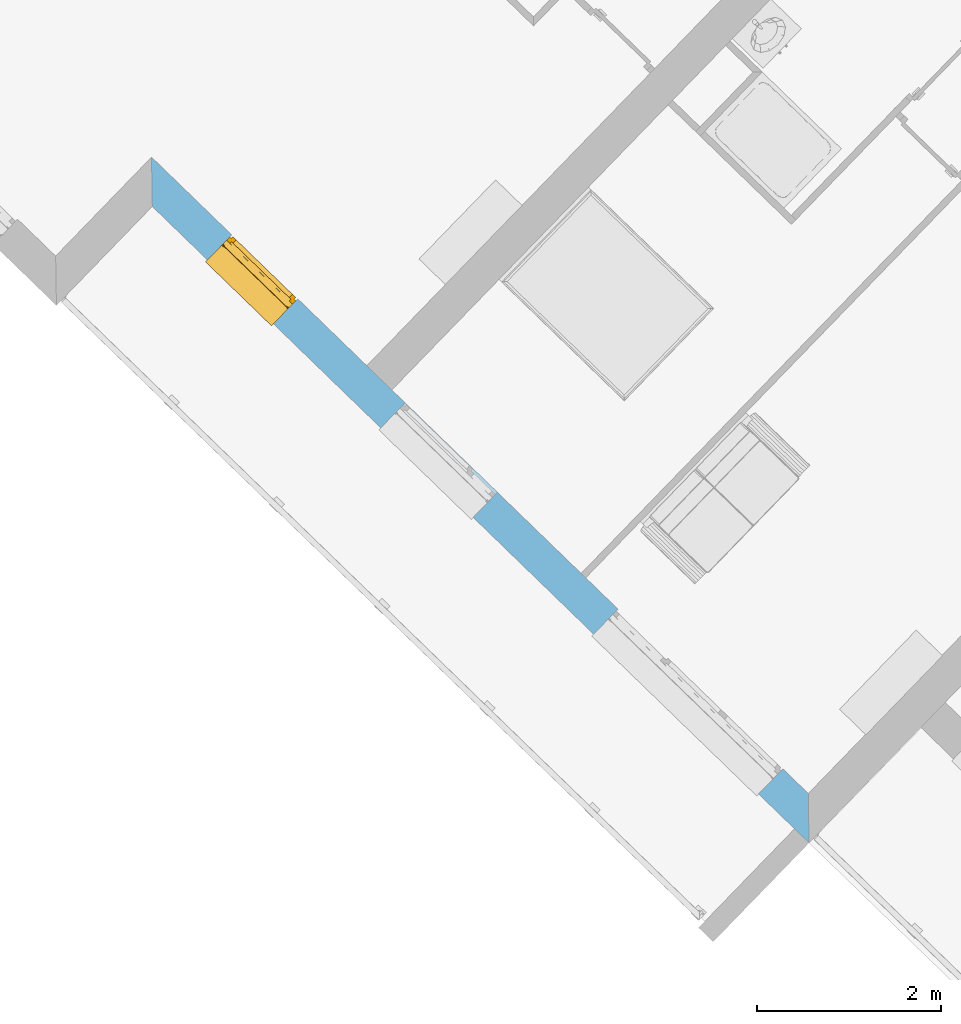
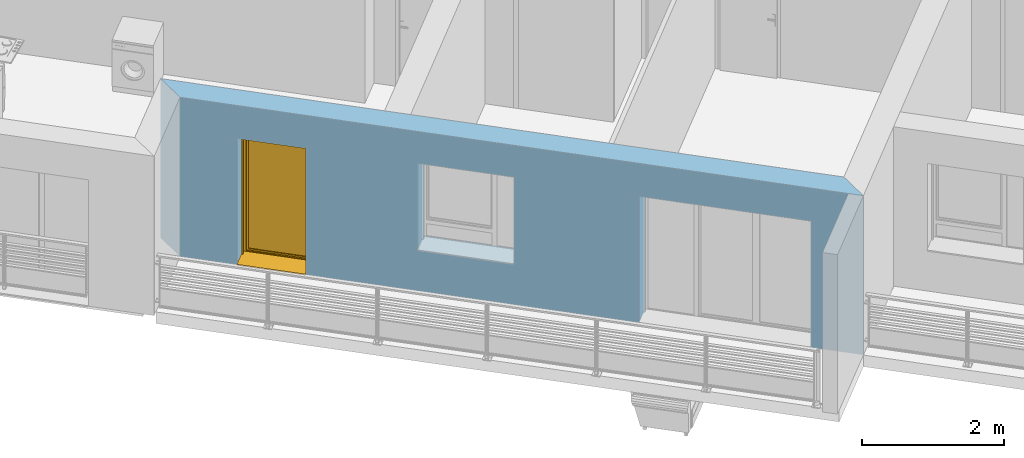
# One storey, part 10 of 121: 1 window, 3 openings, plus 1 element that does not belong to this part.
"""IFC2X3 building model written with IfcOpenShell, lengths in metres."""

from ifc_helpers import new_model, entity, si_unit, converted_unit, derived_unit, money_unit, direction, frame, origin_with_axes, place, context, subcontext, project, spatial, polyline, outline, extrude, open_shell, faceted_brep, surface_model, source, transform, mapped, material, layer, layer_set, layer_usage, type_object, element, fill, save


model = new_model("IFC2X3")

# Units and contexts
model_context = context("Model", 3, precision=1e-05, world=origin_with_axes(), true_north=direction((0.0, 1.0)))
body_context = subcontext(model_context, "Body", "Model", "MODEL_VIEW")
ifc_project = project(units=[si_unit("LENGTHUNIT", "METRE"), si_unit("AREAUNIT", "SQUARE_METRE"), si_unit("VOLUMEUNIT", "CUBIC_METRE"), converted_unit("PLANEANGLEUNIT", "DEGREE", entity("IfcPlaneAngleMeasure", 0.0174532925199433), si_unit("PLANEANGLEUNIT", "RADIAN"), dimensions=[0, 0, 0, 0, 0, 0, 0]), money_unit("CHF"), converted_unit("TIMEUNIT", "Year", entity("IfcTimeMeasure", 31557600.0), si_unit("TIMEUNIT", "SECOND"), dimensions=[0, 0, 1, 0, 0, 0, 0]), si_unit("MASSUNIT", "GRAM", prefix="KILO"), si_unit("THERMODYNAMICTEMPERATUREUNIT", "DEGREE_CELSIUS"), si_unit("LUMINOUSINTENSITYUNIT", "LUMEN"), si_unit("ENERGYUNIT", "JOULE", prefix="MEGA"), derived_unit("THERMALCONDUCTANCEUNIT", [(si_unit("POWERUNIT", "WATT"), 1), (si_unit("LENGTHUNIT", "METRE"), -1), (si_unit("THERMODYNAMICTEMPERATUREUNIT", "KELVIN"), -1)]), derived_unit("SPECIFICHEATCAPACITYUNIT", [(si_unit("ENERGYUNIT", "JOULE"), 1), (si_unit("MASSUNIT", "GRAM", prefix="KILO"), -1), (si_unit("THERMODYNAMICTEMPERATUREUNIT", "KELVIN"), -1)]), derived_unit("MASSDENSITYUNIT", [(si_unit("MASSUNIT", "GRAM", prefix="KILO"), 1), (si_unit("VOLUMEUNIT", "CUBIC_METRE"), -1)])], contexts=[model_context])

# Site, building, storey
site_placement = place(None, origin_with_axes())
site = spatial("IfcSite", under=ifc_project, at=site_placement, Name="Site", CompositionType="ELEMENT")
building_placement = place(site_placement, origin_with_axes())
building = spatial("IfcBuilding", under=site, at=building_placement, Name="Bâtiment", CompositionType="ELEMENT")
storey_placement = place(building_placement, frame((0.0, 0.0, 2.75), z_axis=(0.0, 0.0, 1.0), x_axis=(1.0, 0.0, 0.0)))
storey = spatial("IfcBuildingStorey", under=building, at=storey_placement, Name="Etage 1", CompositionType="ELEMENT", Elevation=2.75)

# Wall, openings, window
ifc_material_1 = material(Name="Parpaing 312445824")
ifc_layer_1 = layer(ifc_material_1, 0.22, ventilated="UNKNOWN")
ifc_material_2 = material(Name="Isolant styromousse 301821074")
ifc_layer_2 = layer(ifc_material_2, 0.16, ventilated="UNKNOWN")
ifc_layer_set = layer_set([ifc_layer_1, ifc_layer_2], Name="isol int 22+16 0836643197")
ifc_layer_usage = layer_usage(ifc_layer_set, "AXIS2", "NEGATIVE", 0.0)
wall_type = type_object("IfcWallType", Name="isol int 22+16 0836643197 380", PredefinedType="NOTDEFINED")
wall_placement = place(storey_placement, frame((9522.723727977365, -1071.439827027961, 57.7), z_axis=(0.0, 0.0, 1.0), x_axis=(-0.7181763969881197, 0.6958610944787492, 0.0)))
wall = element("IfcWallStandardCase", 1, at=wall_placement, inside=storey, type_object=wall_type, material=ifc_layer_usage, Name="Mur-115", context=body_context, shape_type="SweptSolid", body=[
    extrude(outline(polyline([(0.3799999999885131, -0.3800000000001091), (10.33768647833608, -0.3799999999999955), (9.957686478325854, 0.0), (0.0, 0.0), (0.3799999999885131, -0.3800000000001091)])), origin_with_axes(), (0.0, 0.0, 1.0), 2.75),
])
opening_1_placement = place(wall_placement, frame((5.7929670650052, 0.0, 0.7000000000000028), z_axis=(0.0, 0.0, 1.0), x_axis=(1.0, 0.0, 0.0)))
element("IfcOpeningElement", 2, at=opening_1_placement, cuts=wall, Name="Fen-045", context=body_context, shape_type="Brep", body=[
    faceted_brep([(0.6999999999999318, -0.4800000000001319, 1.5), (-0.6999999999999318, -0.4800000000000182, 1.5), (-0.7000000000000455, -5.357363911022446, 1.5), (0.6999999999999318, -5.357363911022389, 1.5), (0.6999999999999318, -0.4800000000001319, 1.700000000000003), (-0.6999999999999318, -0.4800000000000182, 1.700000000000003), (-0.6999999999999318, -0.3000000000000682, 1.5), (-0.6999999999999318, -0.3000000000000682, 0.0), (-0.7000000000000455, -5.357363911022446, 0.0), (0.6999999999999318, -5.357363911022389, 0.0), (0.6999999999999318, -0.3000000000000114, 1.5), (0.6999999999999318, -0.3000000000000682, 0.0), (0.6999999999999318, -0.2200000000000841, 1.5), (0.6999999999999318, -0.2200000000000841, 1.700000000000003), (-0.7000000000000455, -0.220000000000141, 1.700000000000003), (-0.7000000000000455, -0.220000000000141, 1.5), (-0.7000000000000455, 4.977363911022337, 1.5), (-0.7000000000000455, 4.977363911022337, 0.0), (0.6999999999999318, 4.97736391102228, 0.0), (0.6999999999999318, 4.97736391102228, 1.5)], [[[0, 1, 2, 3]], [[1, 0, 4, 5]], [[1, 6, 7, 8, 2]], [[2, 8, 9, 3]], [[10, 0, 3, 9, 11]], [[0, 10, 12, 13, 4]], [[14, 5, 4, 13]], [[6, 1, 5, 14, 15]], [[6, 15, 16, 17, 7]], [[7, 11, 9, 8]], [[12, 10, 11, 18, 19]], [[12, 15, 14, 13]], [[15, 12, 19, 16]], [[19, 18, 17, 16]], [[11, 7, 17, 18]]]),
])
opening_2_placement = place(wall_placement, frame((2.015639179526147, 0.0, 0.0), z_axis=(0.0, 0.0, 1.0), x_axis=(1.0, 0.0, 0.0)))
element("IfcOpeningElement", 3, at=opening_2_placement, cuts=wall, Name="Fen-053", context=body_context, shape_type="Brep", body=[
    faceted_brep([(1.249999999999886, -0.4799999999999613, 2.18), (-1.250000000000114, -0.4799999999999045, 2.18), (-1.25, -5.357363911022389, 2.18), (1.249999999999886, -5.357363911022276, 2.18), (1.249999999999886, -0.4799999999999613, 2.380000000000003), (-1.250000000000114, -0.4799999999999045, 2.380000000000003), (-1.25, -0.2999999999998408, 2.18), (-1.25, -0.2999999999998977, 0.0), (-1.25, -5.357363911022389, 0.0), (1.249999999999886, -5.357363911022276, 0.0), (1.249999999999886, -0.2999999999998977, 2.18), (1.249999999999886, -0.2999999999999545, 0.0), (1.249999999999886, -0.2199999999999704, 2.18), (1.249999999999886, -0.2199999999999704, 2.380000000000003), (-1.250000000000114, -0.2199999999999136, 2.380000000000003), (-1.250000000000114, -0.2199999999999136, 2.18), (-1.25, 4.977363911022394, 2.18), (-1.25, 4.977363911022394, 0.0), (1.249999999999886, 4.977363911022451, 0.0), (1.249999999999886, 4.977363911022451, 2.18)], [[[0, 1, 2, 3]], [[1, 0, 4, 5]], [[1, 6, 7, 8, 2]], [[2, 8, 9, 3]], [[10, 0, 3, 9, 11]], [[0, 10, 12, 13, 4]], [[4, 13, 14, 5]], [[6, 1, 5, 14, 15]], [[6, 15, 16, 17, 7]], [[7, 11, 9, 8]], [[12, 10, 11, 18, 19]], [[12, 15, 14, 13]], [[15, 12, 19, 16]], [[19, 18, 17, 16]], [[11, 7, 17, 18]]]),
])
opening_3_placement = place(wall_placement, frame((8.621077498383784, 0.0, 0.0), z_axis=(0.0, 0.0, 1.0), x_axis=(1.0, 0.0, 0.0)))
opening_3 = element("IfcOpeningElement", 4, at=opening_3_placement, cuts=wall, Name="Fen-052", context=body_context, shape_type="Brep", body=[
    faceted_brep([(0.5, -0.4800000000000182, 2.18), (-0.5, -0.4800000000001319, 2.18), (-0.5000000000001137, -5.357363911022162, 2.18), (0.5, -5.357363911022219, 2.18), (0.5, -0.4800000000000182, 2.380000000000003), (-0.5, -0.4800000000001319, 2.380000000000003), (-0.5, -0.3000000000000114, 2.18), (-0.5, -0.3000000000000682, 0.0), (-0.5000000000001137, -5.357363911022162, 0.0), (0.5, -5.357363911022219, 0.0), (0.5000000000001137, -0.2999999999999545, 2.18), (0.5000000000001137, -0.2999999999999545, 0.0), (0.5, -0.2200000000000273, 2.18), (0.5, -0.2200000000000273, 2.380000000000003), (-0.5, -0.220000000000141, 2.380000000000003), (-0.5, -0.220000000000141, 2.18), (-0.5, 4.977363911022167, 2.18), (-0.5, 4.977363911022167, 0.0), (0.5, 4.977363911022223, 0.0), (0.5, 4.977363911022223, 2.18)], [[[0, 1, 2, 3]], [[1, 0, 4, 5]], [[1, 6, 7, 8, 2]], [[2, 8, 9, 3]], [[10, 0, 3, 9, 11]], [[0, 10, 12, 13, 4]], [[4, 13, 14, 5]], [[6, 1, 5, 14, 15]], [[6, 15, 16, 17, 7]], [[7, 11, 9, 8]], [[12, 10, 11, 18, 19]], [[12, 15, 14, 13]], [[15, 12, 19, 16]], [[19, 18, 17, 16]], [[11, 7, 17, 18]]]),
])
window_style = type_object("IfcWindowStyle", Name="Fenêtre variable 27", ConstructionType="NOTDEFINED", OperationType="SINGLE_PANEL", ParameterTakesPrecedence=False, Sizeable=False)
shared_shape = source(origin_with_axes(), body_context, "Body", "SurfaceModel", [
    surface_model("IfcShellBasedSurfaceModel", [(0.5, -0.05100000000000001, 0.05), (-0.5, -0.05100000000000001, 0.05000000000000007), (-0.5, -0.05100000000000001, 0.04000000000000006), (0.5, -0.05100000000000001, 0.04), (-0.5, -0.3799999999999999, 0.02900000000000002), (0.5, -0.3799999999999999, 0.02899999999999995), (-0.5, -0.3799999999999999, 0.009000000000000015), (0.5, -0.3799999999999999, 0.008999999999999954), (-0.5, -0.3699999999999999, 0.01900000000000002), (0.5, -0.3699999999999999, 0.01899999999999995)], [open_shell([[[0, 1, 2, 3]], [[3, 2, 4, 5]], [[5, 4, 6, 7]], [[7, 6, 8, 9]]])]),
    faceted_brep([(0.5, -0.13, 2.38), (0.5, 0.13, 2.38), (0.497, 0.13, 2.38), (0.497, -0.13, 2.38), (0.5, -0.13, 2.18), (0.5, 0.13, 2.18), (0.497, 0.13, 2.18), (0.497, -0.13, 2.18)], [[[0, 1, 2, 3]], [[0, 4, 5, 1]], [[1, 5, 6, 2]], [[3, 2, 6, 7]], [[4, 0, 3, 7]], [[5, 4, 7, 6]]]),
    faceted_brep([(-0.497, -0.1299999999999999, 2.38), (-0.497, 0.1300000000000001, 2.38), (-0.5, 0.1300000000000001, 2.38), (-0.5, -0.1299999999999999, 2.38), (-0.497, -0.1299999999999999, 2.18), (-0.497, 0.1300000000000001, 2.18), (-0.5, 0.1300000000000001, 2.18), (-0.5, -0.1299999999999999, 2.18)], [[[0, 1, 2, 3]], [[0, 4, 5, 1]], [[1, 5, 6, 2]], [[3, 2, 6, 7]], [[4, 0, 3, 7]], [[5, 4, 7, 6]]]),
    faceted_brep([(0.497, -0.13, 2.18), (0.497, -0.13, 2.38), (-0.497, -0.1299999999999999, 2.38), (-0.497, -0.1299999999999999, 2.18), (0.497, -0.127, 2.18), (0.497, -0.127, 2.377), (0.497, 0.127, 2.377), (0.497, 0.127, 2.183), (0.497, -0.108, 2.183), (0.497, -0.108, 2.18), (0.497, 0.13, 2.18), (0.497, 0.13, 2.38), (-0.497, 0.1300000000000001, 2.38), (-0.497, 0.1300000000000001, 2.18), (-0.497, -0.1079999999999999, 2.18), (-0.497, -0.1079999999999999, 2.183), (-0.497, 0.1270000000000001, 2.183), (-0.497, 0.1270000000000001, 2.377), (-0.497, -0.1269999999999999, 2.377), (-0.497, -0.1269999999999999, 2.18)], [[[0, 1, 2, 3]], [[0, 4, 5, 6, 7, 8, 9, 10, 11, 1]], [[1, 11, 12, 2]], [[3, 2, 12, 13, 14, 15, 16, 17, 18, 19]], [[4, 0, 3, 19]], [[5, 4, 19, 18]], [[6, 5, 18, 17]], [[7, 6, 17, 16]], [[8, 7, 16, 15]], [[9, 8, 15, 14]], [[10, 9, 14, 13]], [[11, 10, 13, 12]]]),
    faceted_brep([(0.494, -0.08075423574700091, 2.265760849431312), (0.494, -0.07705479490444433, 2.251954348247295), (0.494, -0.07101408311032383, 2.239), (0.494, -0.06281564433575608, 2.227291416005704), (0.494, -0.05270858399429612, 2.217184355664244), (0.494, -0.04099999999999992, 2.208985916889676), (0.494, -0.02804565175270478, 2.202945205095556), (0.494, -0.01423915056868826, 2.199245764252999), (0.494, 0.0, 2.198), (0.494, 0.01423915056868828, 2.199245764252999), (0.494, 0.02804565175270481, 2.202945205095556), (0.494, 0.04099999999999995, 2.208985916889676), (0.494, 0.05270858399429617, 2.217184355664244), (0.494, 0.06281564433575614, 2.227291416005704), (0.494, 0.0710140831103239, 2.239), (0.494, 0.07705479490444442, 2.251954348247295), (0.494, 0.08075423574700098, 2.265760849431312), (0.494, 0.08199999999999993, 2.28), (0.494, 0.080754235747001, 2.294239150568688), (0.494, 0.07705479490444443, 2.308045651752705), (0.494, 0.07101408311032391, 2.321), (0.494, 0.06281564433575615, 2.332708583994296), (0.494, 0.05270858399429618, 2.342815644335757), (0.494, 0.04099999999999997, 2.351014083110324), (0.494, 0.02804565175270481, 2.357054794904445), (0.494, 0.01423915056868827, 2.360754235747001), (0.494, 0.0, 2.362), (0.494, -0.0142391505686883, 2.360754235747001), (0.494, -0.02804565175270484, 2.357054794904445), (0.494, -0.041, 2.351014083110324), (0.494, -0.05270858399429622, 2.342815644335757), (0.494, -0.0628156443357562, 2.332708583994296), (0.494, -0.07101408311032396, 2.321), (0.494, -0.07705479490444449, 2.308045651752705), (0.494, -0.08075423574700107, 2.294239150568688), (0.494, -0.082, 2.28), (-0.494, -0.08075423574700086, 2.265760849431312), (-0.494, -0.07705479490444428, 2.251954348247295), (-0.494, -0.07101408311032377, 2.239), (-0.494, -0.06281564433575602, 2.227291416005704), (-0.494, -0.05270858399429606, 2.217184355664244), (-0.494, -0.04099999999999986, 2.208985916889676), (-0.494, -0.02804565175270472, 2.202945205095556), (-0.494, -0.01423915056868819, 2.199245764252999), (-0.494, 0.0, 2.198), (-0.494, 0.01423915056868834, 2.199245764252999), (-0.494, 0.02804565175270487, 2.202945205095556), (-0.494, 0.04100000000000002, 2.208985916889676), (-0.494, 0.05270858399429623, 2.217184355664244), (-0.494, 0.06281564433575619, 2.227291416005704), (-0.494, 0.07101408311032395, 2.239), (-0.494, 0.07705479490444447, 2.251954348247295), (-0.494, 0.08075423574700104, 2.265760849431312), (-0.494, 0.08199999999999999, 2.28), (-0.494, 0.08075423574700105, 2.294239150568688), (-0.494, 0.07705479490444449, 2.308045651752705), (-0.494, 0.07101408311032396, 2.321), (-0.494, 0.0628156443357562, 2.332708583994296), (-0.494, 0.05270858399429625, 2.342815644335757), (-0.494, 0.04100000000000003, 2.351014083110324), (-0.494, 0.02804565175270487, 2.357054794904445), (-0.494, 0.01423915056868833, 2.360754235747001), (-0.494, 0.0, 2.362), (-0.494, -0.01423915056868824, 2.360754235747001), (-0.494, -0.02804565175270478, 2.357054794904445), (-0.494, -0.04099999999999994, 2.351014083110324), (-0.494, -0.05270858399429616, 2.342815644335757), (-0.494, -0.06281564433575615, 2.332708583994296), (-0.494, -0.07101408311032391, 2.321), (-0.494, -0.07705479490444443, 2.308045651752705), (-0.494, -0.08075423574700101, 2.294239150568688), (-0.494, -0.08199999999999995, 2.28)], [[[0, 1, 2, 3, 4, 5, 6, 7, 8, 9, 10, 11, 12, 13, 14, 15, 16, 17, 18, 19, 20, 21, 22, 23, 24, 25, 26, 27, 28, 29, 30, 31, 32, 33, 34, 35]], [[1, 0, 36, 37]], [[2, 1, 37, 38]], [[3, 2, 38, 39]], [[4, 3, 39, 40]], [[5, 4, 40, 41]], [[6, 5, 41, 42]], [[7, 6, 42, 43]], [[8, 7, 43, 44]], [[9, 8, 44, 45]], [[10, 9, 45, 46]], [[11, 10, 46, 47]], [[12, 11, 47, 48]], [[13, 12, 48, 49]], [[14, 13, 49, 50]], [[15, 14, 50, 51]], [[16, 15, 51, 52]], [[17, 16, 52, 53]], [[18, 17, 53, 54]], [[19, 18, 54, 55]], [[20, 19, 55, 56]], [[21, 20, 56, 57]], [[22, 21, 57, 58]], [[23, 22, 58, 59]], [[24, 23, 59, 60]], [[25, 24, 60, 61]], [[26, 25, 61, 62]], [[27, 26, 62, 63]], [[28, 27, 63, 64]], [[29, 28, 64, 65]], [[30, 29, 65, 66]], [[31, 30, 66, 67]], [[32, 31, 67, 68]], [[33, 32, 68, 69]], [[34, 33, 69, 70]], [[35, 34, 70, 71]], [[0, 35, 71, 36]], [[36, 71, 70, 69, 68, 67, 66, 65, 64, 63, 62, 61, 60, 59, 58, 57, 56, 55, 54, 53, 52, 51, 50, 49, 48, 47, 46, 45, 44, 43, 42, 41, 40, 39, 38, 37]]]),
    faceted_brep([(-0.5, -0.105, 0.03), (-0.5, -0.13, 0.03), (-0.5, -0.1299999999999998, 2.18), (-0.5, -0.1049999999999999, 2.18), (-0.475, -0.105, 0.03), (-0.475, -0.108, 0.03), (-0.497, -0.108, 0.03), (-0.497, -0.127, 0.03), (-0.475, -0.127, 0.03), (-0.475, -0.13, 0.03), (-0.475, -0.1299999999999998, 2.18), (-0.475, -0.1269999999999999, 2.18), (-0.497, -0.1269999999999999, 2.18), (-0.497, -0.1079999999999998, 2.18), (-0.475, -0.1079999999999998, 2.18), (-0.475, -0.1049999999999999, 2.18)], [[[0, 1, 2, 3]], [[0, 4, 5, 6, 7, 8, 9, 1]], [[1, 9, 10, 2]], [[3, 2, 10, 11, 12, 13, 14, 15]], [[4, 0, 3, 15]], [[5, 4, 15, 14]], [[6, 5, 14, 13]], [[7, 6, 13, 12]], [[8, 7, 12, 11]], [[9, 8, 11, 10]]]),
    faceted_brep([(0.5, -0.105, 0.03), (0.5, -0.1049999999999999, 2.18), (0.5, -0.1299999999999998, 2.18), (0.5, -0.13, 0.03), (0.475, -0.105, 0.03), (0.475, -0.1049999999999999, 2.18), (0.475, -0.1079999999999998, 2.18), (0.497, -0.1079999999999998, 2.18), (0.497, -0.1269999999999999, 2.18), (0.475, -0.1269999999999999, 2.18), (0.475, -0.1299999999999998, 2.18), (0.475, -0.13, 0.03), (0.475, -0.127, 0.03), (0.497, -0.127, 0.03), (0.497, -0.108, 0.03), (0.475, -0.108, 0.03)], [[[0, 1, 2, 3]], [[4, 5, 1, 0]], [[1, 5, 6, 7, 8, 9, 10, 2]], [[3, 2, 10, 11]], [[0, 3, 11, 12, 13, 14, 15, 4]], [[15, 6, 5, 4]], [[14, 7, 6, 15]], [[13, 8, 7, 14]], [[12, 9, 8, 13]], [[11, 10, 9, 12]]]),
    surface_model("IfcShellBasedSurfaceModel", [(0.497, -0.115, 2.28), (-0.497, -0.1149999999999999, 2.28), (-0.497, -0.1199999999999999, 2.28), (0.497, -0.12, 2.28), (0.497, -0.115, 2.28), (0.497, -0.12, 2.28), (-0.497, -0.1199999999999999, 2.28), (-0.497, -0.1149999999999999, 2.28)], [open_shell([[[0, 1, 2, 3]], [[4, 5, 6, 7]]])]),
    faceted_brep([(0.497, -0.115, 2.28), (0.497, -0.1166666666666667, 2.263333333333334), (-0.497, -0.1166666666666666, 2.263333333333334), (-0.497, -0.1149999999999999, 2.28), (0.497, -0.12, 2.28), (0.497, -0.1216666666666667, 2.263333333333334), (0.497, -0.1216666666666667, 2.246666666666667), (0.497, -0.12, 2.23), (0.497, -0.115, 2.23), (0.497, -0.1166666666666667, 2.246666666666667), (-0.497, -0.1166666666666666, 2.246666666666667), (-0.497, -0.1149999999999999, 2.23), (-0.497, -0.1199999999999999, 2.23), (-0.497, -0.1216666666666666, 2.246666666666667), (-0.497, -0.1216666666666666, 2.263333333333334), (-0.497, -0.1199999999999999, 2.28)], [[[0, 1, 2, 3]], [[0, 4, 5, 6, 7, 8, 9, 1]], [[1, 9, 10, 2]], [[3, 2, 10, 11, 12, 13, 14, 15]], [[4, 0, 3, 15]], [[5, 4, 15, 14]], [[6, 5, 14, 13]], [[7, 6, 13, 12]], [[8, 7, 12, 11]], [[9, 8, 11, 10]]]),
    faceted_brep([(0.497, -0.115, 2.23), (0.497, -0.1166666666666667, 2.213333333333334), (-0.497, -0.1166666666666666, 2.213333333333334), (-0.497, -0.1149999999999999, 2.23), (0.497, -0.12, 2.23), (0.497, -0.1216666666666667, 2.213333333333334), (0.497, -0.1216666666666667, 2.196666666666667), (0.497, -0.12, 2.180000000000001), (0.497, -0.115, 2.180000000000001), (0.497, -0.1166666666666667, 2.196666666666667), (-0.497, -0.1166666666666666, 2.196666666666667), (-0.497, -0.1149999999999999, 2.180000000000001), (-0.497, -0.1199999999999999, 2.180000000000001), (-0.497, -0.1216666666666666, 2.196666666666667), (-0.497, -0.1216666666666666, 2.213333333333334), (-0.497, -0.1199999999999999, 2.23)], [[[0, 1, 2, 3]], [[0, 4, 5, 6, 7, 8, 9, 1]], [[1, 9, 10, 2]], [[3, 2, 10, 11, 12, 13, 14, 15]], [[4, 0, 3, 15]], [[5, 4, 15, 14]], [[6, 5, 14, 13]], [[7, 6, 13, 12]], [[8, 7, 12, 11]], [[9, 8, 11, 10]]]),
    faceted_brep([(0.475, 0.0, 2.13), (0.475, -0.02500000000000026, 2.13), (0.45, -0.02500000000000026, 2.13), (0.45, -0.05000000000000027, 2.13), (0.5, -0.05000000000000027, 2.13), (0.5, 0.0, 2.13), (0.475, 0.0, 0.05000000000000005), (0.475, -0.02500000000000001, 0.05000000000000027), (0.45, -0.02500000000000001, 0.05000000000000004), (0.45, -0.05000000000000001, 0.05000000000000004), (0.5, -0.05000000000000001, 0.05000000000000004), (0.5, 0.0, 0.05000000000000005)], [[[0, 1, 2, 3, 4, 5]], [[1, 0, 6, 7]], [[8, 2, 1, 7]], [[2, 8, 9, 3]], [[4, 3, 9, 10]], [[5, 4, 10, 11]], [[6, 0, 5, 11]], [[7, 6, 11, 10, 9, 8]]]),
    faceted_brep([(-0.45, -0.02500000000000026, 2.13), (-0.475, -0.02500000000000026, 2.13), (-0.475, 0.0, 2.13), (-0.5, 0.0, 2.13), (-0.5, -0.05000000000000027, 2.13), (-0.45, -0.05000000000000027, 2.13), (-0.45, -0.02500000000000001, 0.05000000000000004), (-0.475, -0.02500000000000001, 0.05000000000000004), (-0.475, 0.0, 0.05000000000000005), (-0.5, 0.0, 0.05000000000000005), (-0.5, -0.05000000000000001, 0.05000000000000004), (-0.45, -0.05000000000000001, 0.05000000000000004)], [[[0, 1, 2, 3, 4, 5]], [[1, 0, 6, 7]], [[8, 2, 1, 7]], [[2, 8, 9, 3]], [[9, 10, 4, 3]], [[10, 11, 5, 4]], [[6, 0, 5, 11]], [[7, 6, 11, 10, 9, 8]]]),
    faceted_brep([(-0.45, -0.02500000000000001, 0.05000000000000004), (-0.475, -0.02500000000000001, 0.05000000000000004), (-0.475, 0.0, 0.05000000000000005), (-0.5, 0.0, 0.05000000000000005), (-0.5, -0.05000000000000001, 0.05000000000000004), (-0.45, -0.05000000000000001, 0.05000000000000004), (0.45, -0.02500000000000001, 0.05000000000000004), (0.475, -0.02500000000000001, 0.05000000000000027), (0.475, -0.025, 0.02499999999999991), (-0.475, -0.025, 0.02499999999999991), (-0.475, 0.0, 0.02499999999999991), (0.475, 0.0, 0.02499999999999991), (0.475, 0.0, 0.05000000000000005), (0.5, 0.0, 0.05000000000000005), (0.5, 0.0, 0.0), (-0.5, 0.0, 0.0), (-0.5, -0.05, 0.0), (0.5, -0.05000000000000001, 0.05000000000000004), (0.45, -0.05000000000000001, 0.05000000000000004), (0.5, -0.05, 0.0)], [[[0, 1, 2, 3, 4, 5]], [[1, 0, 6, 7, 8, 9]], [[10, 2, 1, 9]], [[11, 12, 13, 14, 15, 3, 2, 10]], [[15, 16, 4, 3]], [[17, 18, 5, 4, 16, 19]], [[6, 0, 5, 18]], [[7, 6, 18, 17, 13, 12]], [[7, 12, 11, 8]], [[11, 10, 9, 8]], [[13, 17, 19, 14]], [[14, 19, 16, 15]]]),
    faceted_brep([(0.475, 0.0, 2.13), (0.475, 0.0, 2.155), (-0.475, 0.0, 2.155), (-0.475, 0.0, 2.13), (-0.5, 0.0, 2.13), (-0.5, 0.0, 2.18), (0.5, 0.0, 2.18), (0.5, 0.0, 2.13), (0.475, -0.02500000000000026, 2.13), (0.475, -0.02500000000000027, 2.155), (-0.475, -0.02500000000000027, 2.155), (-0.475, -0.02500000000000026, 2.13), (-0.45, -0.02500000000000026, 2.13), (-0.45, -0.05000000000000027, 2.13), (-0.5, -0.05000000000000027, 2.13), (-0.5, -0.05000000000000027, 2.18), (0.5, -0.05000000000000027, 2.18), (0.5, -0.05000000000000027, 2.13), (0.45, -0.05000000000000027, 2.13), (0.45, -0.02500000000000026, 2.13)], [[[0, 1, 2, 3, 4, 5, 6, 7]], [[1, 0, 8, 9]], [[2, 1, 9, 10]], [[3, 2, 10, 11]], [[11, 12, 13, 14, 4, 3]], [[4, 14, 15, 5]], [[5, 15, 16, 6]], [[6, 16, 17, 7]], [[8, 0, 7, 17, 18, 19]], [[12, 11, 10, 9, 8, 19]], [[12, 19, 18, 13]], [[14, 13, 18, 17, 16, 15]]]),
    faceted_brep([(0.425, -0.02500000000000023, 2.105), (0.475, -0.02500000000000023, 2.105), (0.475, 0.02499999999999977, 2.105), (0.425, 0.02499999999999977, 2.105), (0.425, -0.02499999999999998, 0.07500000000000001), (0.475, -0.02499999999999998, 0.07500000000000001), (0.475, 0.02500000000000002, 0.07500000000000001), (0.425, 0.02500000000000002, 0.07500000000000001)], [[[0, 1, 2, 3]], [[0, 4, 5, 1]], [[1, 5, 6, 2]], [[3, 2, 6, 7]], [[4, 0, 3, 7]], [[5, 4, 7, 6]]]),
    faceted_brep([(-0.425, -0.02500000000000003, 0.07500000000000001), (-0.475, -0.02500000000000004, 0.07500000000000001), (-0.475, 0.02499999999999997, 0.07500000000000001), (-0.425, 0.02499999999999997, 0.07500000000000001), (-0.425, -0.02500000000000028, 2.105), (-0.475, -0.02500000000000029, 2.105), (-0.475, 0.02499999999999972, 2.105), (-0.425, 0.02499999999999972, 2.105)], [[[0, 1, 2, 3]], [[0, 4, 5, 1]], [[1, 5, 6, 2]], [[3, 2, 6, 7]], [[4, 0, 3, 7]], [[5, 4, 7, 6]]]),
    faceted_brep([(-0.475, -0.02500000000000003, 0.025), (-0.475, -0.02500000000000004, 0.07500000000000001), (-0.475, 0.02499999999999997, 0.07500000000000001), (-0.475, 0.02499999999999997, 0.02500000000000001), (0.475, -0.02499999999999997, 0.025), (0.475, -0.02499999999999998, 0.07500000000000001), (0.425, -0.02499999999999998, 0.07500000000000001), (-0.425, -0.02500000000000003, 0.07500000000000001), (-0.425, 0.02499999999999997, 0.07500000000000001), (0.425, 0.02500000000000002, 0.07500000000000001), (0.475, 0.02500000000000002, 0.07500000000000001), (0.475, 0.02500000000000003, 0.02500000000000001)], [[[0, 1, 2, 3]], [[0, 4, 5, 6, 7, 1]], [[1, 7, 8, 2]], [[3, 2, 8, 9, 10, 11]], [[4, 0, 3, 11]], [[5, 4, 11, 10]], [[6, 5, 10, 9]], [[7, 6, 9, 8]]]),
    faceted_brep([(0.475, -0.02500000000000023, 2.155), (0.475, -0.02500000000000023, 2.105), (0.475, 0.02499999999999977, 2.105), (0.475, 0.02499999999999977, 2.155), (-0.475, -0.02500000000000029, 2.155), (-0.475, -0.02500000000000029, 2.105), (-0.425, -0.02500000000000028, 2.105), (0.425, -0.02500000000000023, 2.105), (0.425, 0.02499999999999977, 2.105), (-0.425, 0.02499999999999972, 2.105), (-0.475, 0.02499999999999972, 2.105), (-0.475, 0.02499999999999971, 2.155)], [[[0, 1, 2, 3]], [[0, 4, 5, 6, 7, 1]], [[1, 7, 8, 2]], [[3, 2, 8, 9, 10, 11]], [[4, 0, 3, 11]], [[5, 4, 11, 10]], [[6, 5, 10, 9]], [[7, 6, 9, 8]]]),
    surface_model("IfcShellBasedSurfaceModel", [(0.425, -0.01000000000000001, 0.07500000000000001), (0.425, -0.01000000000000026, 2.105), (-0.425, -0.01000000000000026, 2.105), (-0.425, -0.01000000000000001, 0.07500000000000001)], [open_shell([[[0, 1, 2, 3]]])]),
    surface_model("IfcShellBasedSurfaceModel", [(0.425, 0.009999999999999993, 0.07500000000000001), (-0.425, 0.009999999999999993, 0.07500000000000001), (-0.425, 0.009999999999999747, 2.105), (0.425, 0.009999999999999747, 2.105)], [open_shell([[[0, 1, 2, 3]]])]),
])
window_placement = place(opening_3_placement, frame((0.4999999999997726, 0.0, 0.0), z_axis=(0.0, 0.0, 1.0), x_axis=(-1.0, 0.0, 0.0)))
window = element("IfcWindow", 5, at=window_placement, inside=storey, type_object=window_style, Name="Fen-052", OverallHeight=2.18, OverallWidth=1.0, context=body_context, shape_type="MappedRepresentation", body=[
    mapped(shared_shape, transform((0.5, 0.3500000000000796, 0.0))),
])
fill(opening_3, window)

save(model, "model.ifc")
